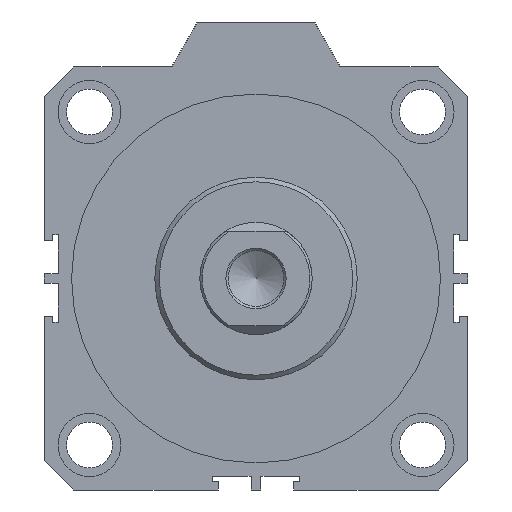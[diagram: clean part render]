
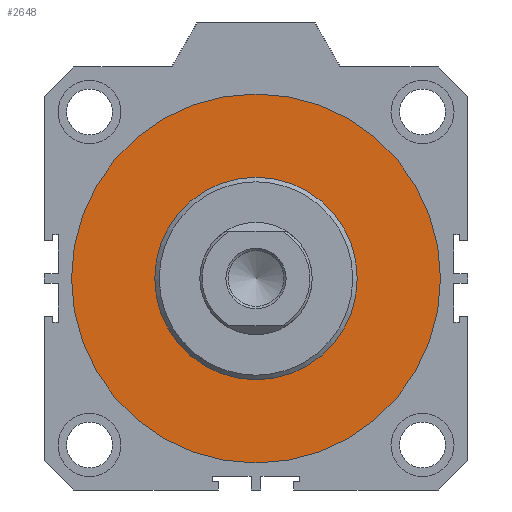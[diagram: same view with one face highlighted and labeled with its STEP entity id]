
A CAD part, front view. The second image highlights one B-rep face of the part: STEP entity #2648.
In plain terms, the highlighted planar face has unit normal (0, -1, 0).
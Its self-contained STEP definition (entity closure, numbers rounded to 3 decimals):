
#432=PLANE('',#2841);
#832=ORIENTED_EDGE('',*,*,#1098,.T.);
#833=ORIENTED_EDGE('',*,*,#1101,.T.);
#1098=EDGE_CURVE('',#1280,#1280,#1361,.T.);
#1101=EDGE_CURVE('',#1283,#1283,#1364,.F.);
#1280=VERTEX_POINT('',#3881);
#1283=VERTEX_POINT('',#3889);
#1361=CIRCLE('',#2837,41.);
#1364=CIRCLE('',#2842,22.5);
#1533=EDGE_LOOP('',(#832));
#1534=EDGE_LOOP('',(#833));
#1727=FACE_BOUND('',#1533,.T.);
#1728=FACE_BOUND('',#1534,.T.);
#2648=ADVANCED_FACE('',(#1727,#1728),#432,.T.);
#2837=AXIS2_PLACEMENT_3D('',#3880,#3325,#3326);
#2841=AXIS2_PLACEMENT_3D('',#3887,#3333,#3334);
#2842=AXIS2_PLACEMENT_3D('',#3888,#3335,#3336);
#3325=DIRECTION('',(0.,-1.,0.));
#3326=DIRECTION('',(0.,0.,-1.));
#3333=DIRECTION('',(0.,-1.,0.));
#3334=DIRECTION('',(0.,0.,-1.));
#3335=DIRECTION('',(0.,-1.,0.));
#3336=DIRECTION('',(0.,0.,-1.));
#3880=CARTESIAN_POINT('',(0.,-3.75,0.));
#3881=CARTESIAN_POINT('',(0.,-3.75,-41.));
#3887=CARTESIAN_POINT('',(0.,-3.75,0.));
#3888=CARTESIAN_POINT('',(0.,-3.75,0.));
#3889=CARTESIAN_POINT('',(0.,-3.75,-22.5));
